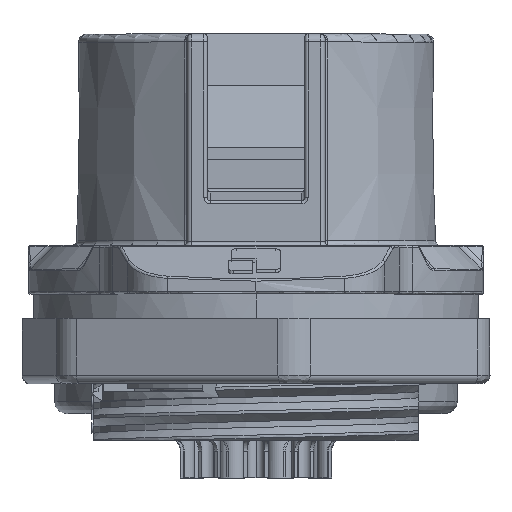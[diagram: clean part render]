
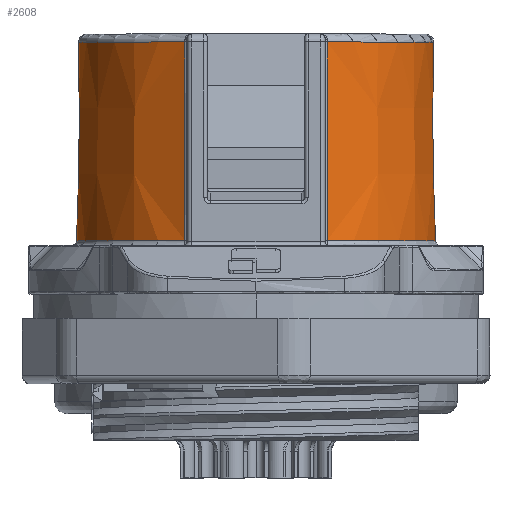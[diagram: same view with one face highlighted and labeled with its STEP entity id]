
A CAD part, top view. The second image highlights one B-rep face of the part: STEP entity #2608.
In plain terms, the highlighted conical face has half-angle 0.5 degrees and reference radius 11.05 mm.
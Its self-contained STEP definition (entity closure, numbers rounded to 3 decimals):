
#1674 = CARTESIAN_POINT ( 'NONE',  ( -4.371, 33.097, 10.142 ) ) ;
#2073 = CARTESIAN_POINT ( 'NONE',  ( -4.371, 32.964, 10.143 ) ) ;
#2473 = CARTESIAN_POINT ( 'NONE',  ( -4.37, 44.904, 10.03 ) ) ;
#2608 = ADVANCED_FACE ( 'NONE', ( #46269 ), #70242, .T. ) ;
#2791 = DIRECTION ( 'NONE',  ( 0., 0., 1. ) ) ;
#5215 = CARTESIAN_POINT ( 'NONE',  ( 4.37, 44.504, 10.034 ) ) ;
#8305 = CARTESIAN_POINT ( 'NONE',  ( 4.37, 43.971, 10.039 ) ) ;
#9263 = CARTESIAN_POINT ( 'NONE',  ( 0., 44.904, 0. ) ) ;
#11278 = ORIENTED_EDGE ( 'NONE', *, *, #87655, .T. ) ;
#11525 = CARTESIAN_POINT ( 'NONE',  ( -4.371, 34.164, 10.132 ) ) ;
#12434 = CARTESIAN_POINT ( 'NONE',  ( 4.371, 35.236, 10.122 ) ) ;
#18707 = DIRECTION ( 'NONE',  ( 0., 0., 1. ) ) ;
#18902 = VERTEX_POINT ( 'NONE', #57107 ) ;
#19071 = CARTESIAN_POINT ( 'NONE',  ( 4.37, 44.904, 10.03 ) ) ;
#19575 = CIRCLE ( 'NONE', #53178, 10.941 ) ;
#23063 = CARTESIAN_POINT ( 'NONE',  ( 4.371, 36.505, 10.11 ) ) ;
#29674 = CARTESIAN_POINT ( 'NONE',  ( -4.37, 42.366, 10.054 ) ) ;
#34923 = AXIS2_PLACEMENT_3D ( 'NONE', #66641, #103373, #2791 ) ;
#37184 = CARTESIAN_POINT ( 'NONE',  ( -4.371, 32.831, 10.145 ) ) ;
#40597 = CARTESIAN_POINT ( 'NONE',  ( 4.37, 43.438, 10.044 ) ) ;
#41195 = ORIENTED_EDGE ( 'NONE', *, *, #80122, .T. ) ;
#42564 = VERTEX_POINT ( 'NONE', #80083 ) ;
#46269 = FACE_OUTER_BOUND ( 'NONE', #55745, .T. ) ;
#46663 = CARTESIAN_POINT ( 'NONE',  ( -4.37, 41.097, 10.066 ) ) ;
#47556 = CARTESIAN_POINT ( 'NONE',  ( 4.371, 38.638, 10.09 ) ) ;
#49887 = CARTESIAN_POINT ( 'NONE',  ( 4.37, 44.771, 10.031 ) ) ;
#53178 = AXIS2_PLACEMENT_3D ( 'NONE', #9263, #72328, #18707 ) ;
#55301 = ORIENTED_EDGE ( 'NONE', *, *, #64357, .T. ) ;
#55745 = EDGE_LOOP ( 'NONE', ( #11278, #58201, #55301, #41195 ) ) ;
#56091 = CARTESIAN_POINT ( 'NONE',  ( -4.37, 38.964, 10.087 ) ) ;
#57107 = CARTESIAN_POINT ( 'NONE',  ( -4.371, 32.697, 10.146 ) ) ;
#58201 = ORIENTED_EDGE ( 'NONE', *, *, #92227, .T. ) ;
#64357 = EDGE_CURVE ( 'NONE', #42564, #75392, #19575, .T. ) ;
#66641 = CARTESIAN_POINT ( 'NONE',  ( 0., 32.4, 0. ) ) ;
#69937 = CARTESIAN_POINT ( 'NONE',  ( 4.371, 33.967, 10.134 ) ) ;
#70242 = CONICAL_SURFACE ( 'NONE', #34923, 11.05, 0.009 ) ;
#72328 = DIRECTION ( 'NONE',  ( 0., -1., 0. ) ) ;
#73062 = CARTESIAN_POINT ( 'NONE',  ( -4.371, 36.831, 10.107 ) ) ;
#75392 = VERTEX_POINT ( 'NONE', #19071 ) ;
#79414 = CARTESIAN_POINT ( 'NONE',  ( 4.37, 44.638, 10.033 ) ) ;
#80083 = CARTESIAN_POINT ( 'NONE',  ( -4.37, 44.904, 10.03 ) ) ;
#80122 = EDGE_CURVE ( 'NONE', #75392, #90344, #115478, .T. ) ;
#82755 = DIRECTION ( 'NONE',  ( 0., 1., 0. ) ) ;
#82930 = CARTESIAN_POINT ( 'NONE',  ( -4.371, 33.631, 10.137 ) ) ;
#83147 = CARTESIAN_POINT ( 'NONE',  ( 0., 32.697, 0. ) ) ;
#83703 = CARTESIAN_POINT ( 'NONE',  ( -4.371, 34.697, 10.127 ) ) ;
#85260 = CIRCLE ( 'NONE', #89512, 11.047 ) ;
#85370 = CARTESIAN_POINT ( 'NONE',  ( 4.37, 44.904, 10.03 ) ) ;
#87473 = CARTESIAN_POINT ( 'NONE',  ( 4.37, 42.904, 10.049 ) ) ;
#87655 = EDGE_CURVE ( 'NONE', #90344, #18902, #85260, .T. ) ;
#89463 = B_SPLINE_CURVE_WITH_KNOTS ( 'NONE', 3,
 ( #110177, #37184, #2073, #1674, #82930, #11525, #83703, #73062, #56091, #46663, #29674, #101473, #2473 ),
 .UNSPECIFIED., .F., .F.,
 ( 4, 3, 3, 3, 4 ),
 ( 0., 0., 0.002, 0.008, 0.012 ),
 .UNSPECIFIED. ) ;
#89512 = AXIS2_PLACEMENT_3D ( 'NONE', #83147, #82755, #91835 ) ;
#90044 = CARTESIAN_POINT ( 'NONE',  ( 4.371, 32.697, 10.146 ) ) ;
#90344 = VERTEX_POINT ( 'NONE', #112819 ) ;
#91835 = DIRECTION ( 'NONE',  ( 0., 0., -1. ) ) ;
#92227 = EDGE_CURVE ( 'NONE', #18902, #42564, #89463, .T. ) ;
#101473 = CARTESIAN_POINT ( 'NONE',  ( -4.37, 43.635, 10.042 ) ) ;
#103373 = DIRECTION ( 'NONE',  ( 0., -1., 0. ) ) ;
#107944 = CARTESIAN_POINT ( 'NONE',  ( 4.37, 40.771, 10.069 ) ) ;
#110177 = CARTESIAN_POINT ( 'NONE',  ( -4.371, 32.697, 10.146 ) ) ;
#112819 = CARTESIAN_POINT ( 'NONE',  ( 4.371, 32.697, 10.146 ) ) ;
#115478 = B_SPLINE_CURVE_WITH_KNOTS ( 'NONE', 3,
 ( #85370, #49887, #79414, #5215, #8305, #40597, #87473, #107944, #47556, #23063, #12434, #69937, #90044 ),
 .UNSPECIFIED., .F., .F.,
 ( 4, 3, 3, 3, 4 ),
 ( 0., 0., 0.002, 0.008, 0.012 ),
 .UNSPECIFIED. ) ;
